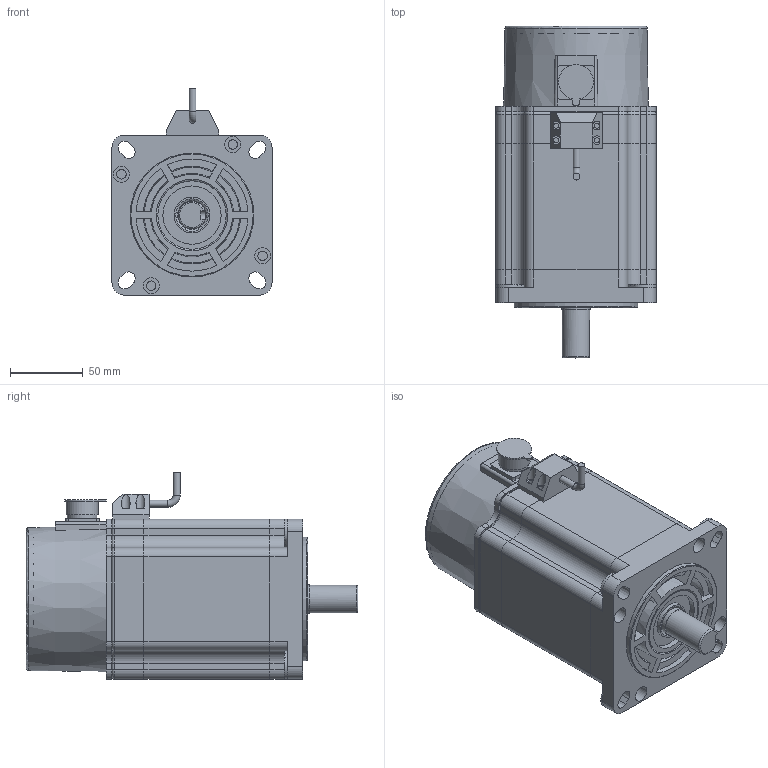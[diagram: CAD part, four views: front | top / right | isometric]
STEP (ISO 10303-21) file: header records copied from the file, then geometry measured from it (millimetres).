
FILE_DESCRIPTION(/* description */ (''),/* implementation_level */ '2;1');
FILE_NAME(/* name */ '110BYG350B(止口φ85).stp',/* time_stamp */ '2024-08-16T09:51:44+08:00',/* author */ (''),/* organization */ (''),/* preprocessor_version */ 'ST-DEVELOPER v18.1',/* originating_system */ 'SIEMENS PLM Software NX 2000',/* authorisation */ '');
FILE_SCHEMA (('AUTOMOTIVE_DESIGN { 1 0 10303 214 3 1 1 1 }'));
Length unit declared in the file: millimetre
Products named in the file (1): 925032A4A3696tk5
Bounding box: 110 x 228 x 141.72 mm (x, y, z)
Volume: 1460305.8 mm3; surface area: 213379.3 mm2
Topology: 10 solids, 10 shells, 548 faces, 1493 edges, 984 vertices
Faces by surface type: plane 358, cylinder 147, cone 26, torus 17
Full cylindrical faces by diameter (mm): 3 x4, 3.5 x4, 4.8 x2, 6 x4, 6.5 x12, 7 x1, 11 x4, 16.5 x1, 19 x1, 19.7 x1, 20 x1, 20.196 x2, 22.032 x1, 22.288 x1, 24.616 x1, 40 x1, 47 x2, 85 x1
Entity records: 17433 total; most frequent: CARTESIAN_POINT 3366, DIRECTION 2816, ORIENTED_EDGE 2806, EDGE_CURVE 1403, LINE 1020, VECTOR 1020, VERTEX_POINT 953, AXIS2_PLACEMENT_3D 898
